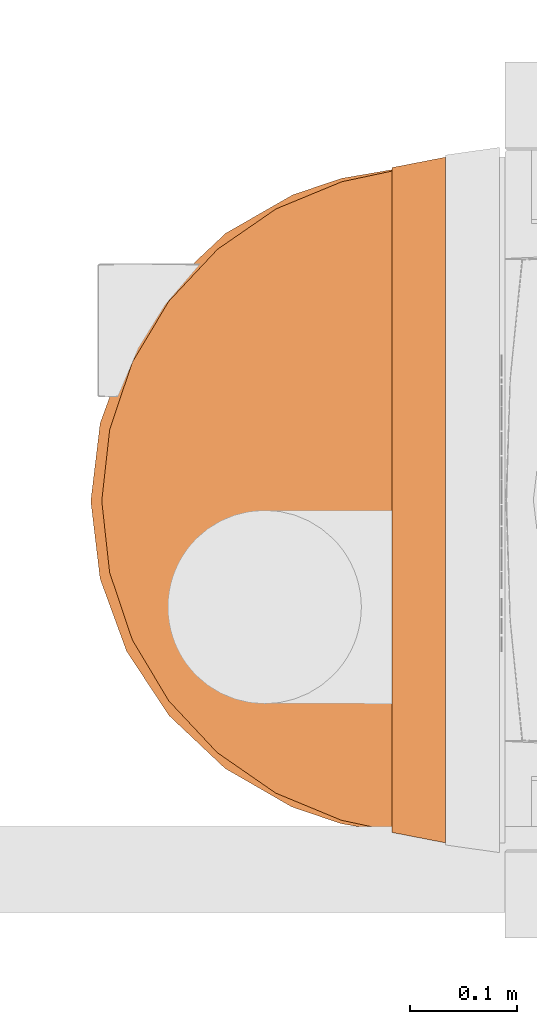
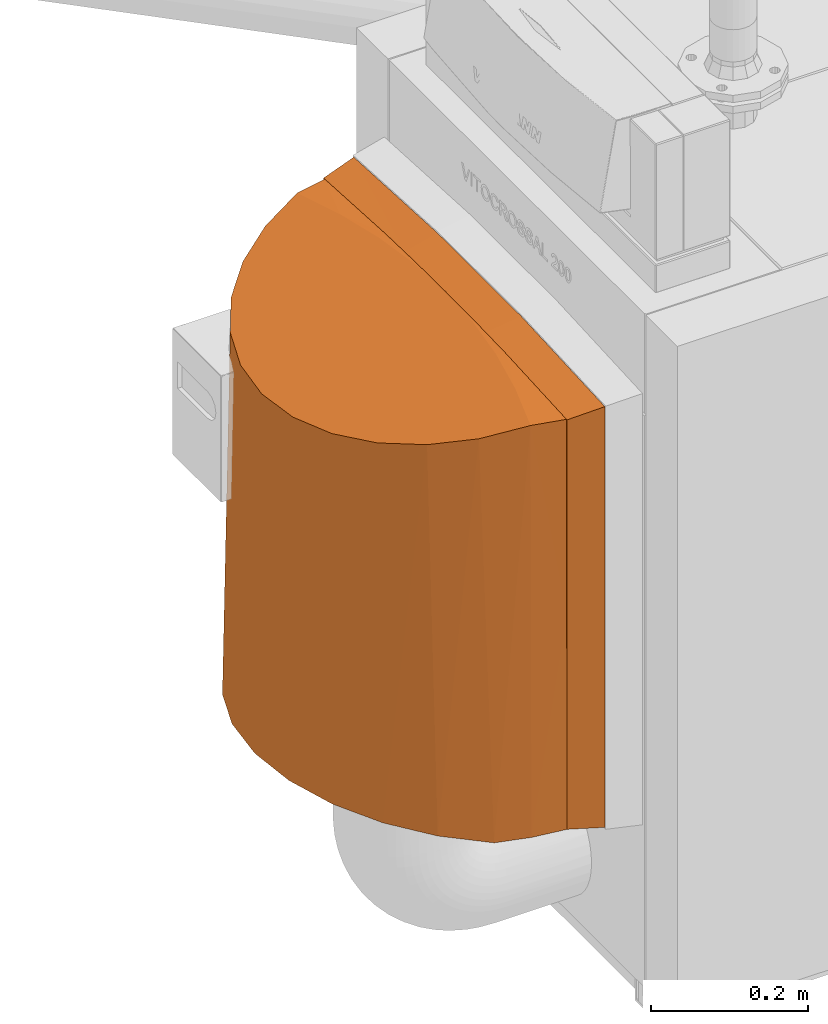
# One storey, part 367 of 374: 2 proxies.
"""IFC2X3 building model written with IfcOpenShell, lengths in metres."""

from ifc_helpers import new_model, si_unit, direction, origin, place, context, subcontext, project, spatial, open_shell, surface_model, source, transform, mapped, element, save


model = new_model("IFC2X3")

# Units and contexts
model_context = context("Model", 3, precision=1e-05, world=origin(), true_north=direction((-0.4480736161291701, 0.8939966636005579)))
body_context = subcontext(model_context, "Body", "Model", "MODEL_VIEW")
ifc_project = project(units=[si_unit("LENGTHUNIT", "METRE"), si_unit("AREAUNIT", "SQUARE_METRE"), si_unit("VOLUMEUNIT", "CUBIC_METRE"), si_unit("PLANEANGLEUNIT", "RADIAN"), si_unit("THERMODYNAMICTEMPERATUREUNIT", "KELVIN"), si_unit("MASSUNIT", "GRAM", prefix="KILO"), si_unit("TIMEUNIT", "SECOND")], contexts=[model_context])

# Site, building, storey
site_placement = place(None, origin())
site = spatial("IfcSite", under=ifc_project, at=site_placement, Name="Site 1", CompositionType="ELEMENT")
building_placement = place(site_placement, origin())
building = spatial("IfcBuilding", under=site, at=building_placement, Name="Undefined", CompositionType="ELEMENT")
storey_placement = place(building_placement, origin())
storey = spatial("IfcBuildingStorey", under=building, at=storey_placement, Name="Rez de chauss\x8ee", CompositionType="ELEMENT", Elevation=0.0)

# Proxies
shared_shape_1 = source(origin(), body_context, "Body", "SurfaceModel", [
    surface_model("IfcFaceBasedSurfaceModel", [(0.20081788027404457, 0.04740487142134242, 0.0), (0.0, 0.0, 0.0), (0.22150495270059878, -7.105427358e-15, 0.0), (0.014378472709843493, -0.04895497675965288, 0.0003128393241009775), (-0.20100574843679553, -0.045413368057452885, -0.010457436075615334), (-0.19295563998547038, -0.09579811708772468, -0.010473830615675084), (-0.4016641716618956, -0.08871431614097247, -0.03134446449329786), (-0.39991287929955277, -0.14039736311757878, -0.03232960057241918), (-0.3969123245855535, 0.03367777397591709, -0.6542667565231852), (-0.3950293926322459, -0.01461466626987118, -0.672508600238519), (-0.19617598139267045, 0.08218588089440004, -0.6600325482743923), (-0.1879928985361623, 0.035506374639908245, -0.6789202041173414), (0.005080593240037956, 0.12765615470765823, -0.6495632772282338), (0.01961400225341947, 0.0824113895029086, -0.6681205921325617), (0.205569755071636, 0.16979767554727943, -0.6229259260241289), (0.22638846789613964, 0.12578343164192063, -0.6401827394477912)], [open_shell([[[0, 1, 2]], [[2, 1, 3]], [[1, 4, 3]], [[3, 4, 5]], [[4, 6, 5]], [[5, 6, 7]], [[8, 9, 6]], [[6, 9, 7]], [[8, 10, 9]], [[9, 10, 11]], [[10, 12, 11]], [[11, 12, 13]], [[12, 14, 13]], [[13, 14, 15]], [[14, 0, 15]], [[15, 0, 2]], [[6, 4, 8]], [[8, 4, 10]], [[10, 4, 12]], [[12, 4, 1]], [[12, 1, 14]], [[14, 1, 0]], [[2, 3, 15]], [[15, 3, 13]], [[3, 5, 13]], [[13, 5, 11]], [[7, 9, 5]], [[5, 9, 11]]])]),
])
proxy_1_placement = place(storey_placement, origin())
element("IfcBuildingElementProxy", 1, at=proxy_1_placement, inside=storey, Name="BuildingElementProxy 36", context=body_context, shape_type="MappedRepresentation", body=[
    mapped(shared_shape_1, transform((53.494989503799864, 13.159381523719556, 1.1079237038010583), x_axis=(0.22572858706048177, 0.9741614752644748, -0.007484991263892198), y_axis=(-0.9562379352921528, 0.22009412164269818, -0.19278897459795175), z_axis=(-0.1861601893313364, 0.050675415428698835, 0.9812116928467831))),
])
shared_shape_2 = source(origin(), body_context, "Body", "SurfaceModel", [
    surface_model("IfcFaceBasedSurfaceModel", [(0.007869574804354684, 0.04666519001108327, -1.776356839e-15), (0.0, 0.0, 0.0), (0.32244262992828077, 0.0, -1.776356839e-15), (0.6301547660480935, -0.09340275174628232, -0.0019019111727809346), (0.6363327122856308, -0.04658314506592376, -0.00011031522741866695), (-0.008638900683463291, -0.046596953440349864, -0.007336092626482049), (0.606302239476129, -0.15528991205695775, -0.016370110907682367), (-0.007989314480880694, -0.1149368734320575, -0.03188695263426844), (0.5847349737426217, -0.21289715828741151, -0.04417646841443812), (-0.007884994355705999, -0.17564684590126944, -0.0714045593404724), (0.5664340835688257, -0.2636038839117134, -0.08405604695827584), (-0.008331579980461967, -0.22544481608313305, -0.1237525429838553), (0.5522320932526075, -0.3051033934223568, -0.13419468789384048), (-0.009304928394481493, -0.2616386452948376, -0.1861009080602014), (0.5427750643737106, -0.3355078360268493, -0.19231153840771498), (-0.01075241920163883, -0.2822716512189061, -0.2550790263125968), (0.2638703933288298, -0.3178528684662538, -0.2554209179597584), (0.53849320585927, -0.35343408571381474, -0.25576280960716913), (-0.00620074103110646, -0.05785307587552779, -0.6074222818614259), (0.006917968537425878, -0.059552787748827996, -0.6074386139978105), (-0.013761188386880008, -0.10205751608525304, -0.5913487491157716), (0.020036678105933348, -0.061252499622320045, -0.6074549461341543), (0.32133387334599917, -0.10574574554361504, -0.6062954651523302), (0.6220048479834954, -0.15012883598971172, -0.6050371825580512), (0.6162164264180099, -0.1941862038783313, -0.5872309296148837), (-0.021760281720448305, -0.14368348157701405, -0.5682766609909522), (0.5935843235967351, -0.24741071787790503, -0.5518931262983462), (-0.019467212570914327, -0.19965374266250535, -0.5224186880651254), (0.5738072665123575, -0.29219058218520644, -0.5055657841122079), (-0.017099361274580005, -0.24348894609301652, -0.4650794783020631), (0.5577821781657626, -0.3264949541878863, -0.45034992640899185), (-0.014783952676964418, -0.2728338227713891, -0.399339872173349), (0.5462358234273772, -0.3487680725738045, -0.38874968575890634), (-0.012645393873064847, -0.2861116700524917, -0.32873206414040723), (0.5396918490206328, -0.35799981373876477, -0.32355873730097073), (0.2638242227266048, -0.318190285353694, -0.2573917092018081), (0.5384470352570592, -0.3537715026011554, -0.25773360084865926), (-0.010798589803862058, -0.28260906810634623, -0.2570498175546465), (-0.021079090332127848, -0.09099792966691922, -0.5050754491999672), (-0.01634694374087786, -0.029302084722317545, -0.4554485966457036), (-0.006130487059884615, -0.05737948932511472, -0.6075050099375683), (-0.020119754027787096, -0.0498842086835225, -0.43973279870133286), (-0.018883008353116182, -0.020373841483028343, -0.37229880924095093), (-0.017369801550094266, -0.002489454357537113, -0.30282518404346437), (-0.01122476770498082, -0.018309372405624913, -0.08396269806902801), (-0.009276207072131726, 0.022804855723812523, -0.1511517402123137), (-0.015591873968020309, 0.003752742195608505, -0.23176328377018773), (-0.01354301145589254, -0.0015218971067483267, -0.1587906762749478), (0.6361216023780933, -0.086872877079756, -0.07819527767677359), (0.641497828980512, -0.0736567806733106, -0.15071021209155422), (0.639896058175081, -0.0857809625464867, -0.15358366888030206), (0.6414768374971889, -0.09012738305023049, -0.22804120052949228), (0.6418947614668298, -0.08731013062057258, -0.22853332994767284), (0.6408633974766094, -0.09991064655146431, -0.3015423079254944), (0.6380311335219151, -0.11524127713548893, -0.37451869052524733), (0.6329779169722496, -0.13606922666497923, -0.4464755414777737), (0.6257055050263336, -0.16238725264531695, -0.5173878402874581), (0.634367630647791, -0.12547363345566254, -0.45339692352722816), (0.6384543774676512, -0.11238816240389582, -0.37501708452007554), (0.006953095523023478, -0.05931599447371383, -0.6074799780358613)], [open_shell([[[0, 1, 2]], [[2, 1, 3]], [[2, 3, 4]], [[1, 5, 3]], [[3, 5, 6]], [[5, 7, 6]], [[6, 7, 8]], [[7, 9, 8]], [[8, 9, 10]], [[9, 11, 10]], [[10, 11, 12]], [[11, 13, 12]], [[12, 13, 14]], [[15, 16, 13]], [[13, 16, 14]], [[16, 17, 14]], [[18, 19, 20]], [[20, 19, 21]], [[20, 21, 22]], [[23, 24, 22]], [[22, 24, 20]], [[20, 24, 25]], [[25, 24, 26]], [[25, 26, 27]], [[27, 26, 28]], [[27, 28, 29]], [[29, 28, 30]], [[29, 30, 31]], [[31, 30, 32]], [[31, 32, 33]], [[33, 32, 34]], [[33, 34, 35]], [[35, 34, 36]], [[35, 37, 33]], [[20, 38, 18]], [[18, 38, 39]], [[18, 39, 40]], [[20, 25, 38]], [[38, 41, 39]], [[39, 41, 42]], [[39, 42, 43]], [[5, 1, 44]], [[44, 1, 0]], [[44, 0, 45]], [[43, 46, 45]], [[45, 46, 47]], [[45, 47, 44]], [[25, 27, 38]], [[38, 27, 29]], [[38, 29, 41]], [[41, 29, 31]], [[41, 31, 42]], [[42, 31, 33]], [[42, 33, 43]], [[43, 33, 37]], [[43, 37, 15]], [[15, 13, 43]], [[43, 13, 46]], [[13, 11, 46]], [[46, 11, 47]], [[11, 9, 47]], [[47, 9, 44]], [[9, 7, 44]], [[44, 7, 5]], [[15, 37, 16]], [[16, 37, 35]], [[16, 35, 17]], [[17, 35, 36]], [[3, 48, 4]], [[4, 48, 49]], [[48, 50, 49]], [[49, 50, 51]], [[49, 51, 52]], [[52, 51, 53]], [[17, 36, 53]], [[53, 36, 34]], [[53, 34, 54]], [[54, 34, 32]], [[54, 32, 30]], [[54, 30, 55]], [[55, 30, 28]], [[55, 28, 56]], [[56, 28, 26]], [[56, 26, 24]], [[17, 53, 14]], [[14, 53, 51]], [[14, 51, 12]], [[12, 51, 10]], [[51, 50, 10]], [[10, 50, 8]], [[50, 48, 8]], [[8, 48, 6]], [[48, 3, 6]], [[24, 23, 56]], [[56, 23, 57]], [[56, 57, 55]], [[55, 57, 54]], [[57, 58, 54]], [[54, 58, 53]], [[21, 19, 59]], [[59, 19, 40]], [[19, 18, 40]], [[23, 22, 57]], [[57, 22, 58]], [[21, 39, 22]], [[22, 39, 43]], [[22, 43, 2]], [[2, 43, 45]], [[2, 45, 0]], [[21, 59, 39]], [[39, 59, 40]], [[4, 49, 2]], [[2, 49, 52]], [[2, 52, 53]], [[2, 53, 22]], [[22, 53, 58]]])]),
])
proxy_2_placement = place(storey_placement, origin())
element("IfcBuildingElementProxy", 2, at=proxy_2_placement, inside=storey, Name="BuildingElementProxy 37", context=body_context, shape_type="MappedRepresentation", body=[
    mapped(shared_shape_2, transform((53.44836559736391, 13.355436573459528, 0.461240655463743), x_axis=(0.1445959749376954, 0.023085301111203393, 0.9892214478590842), y_axis=(0.9747307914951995, 0.16870844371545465, -0.14641497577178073), z_axis=(-0.17027004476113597, 0.985395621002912, 0.0018926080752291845))),
])

save(model, "model.ifc")
